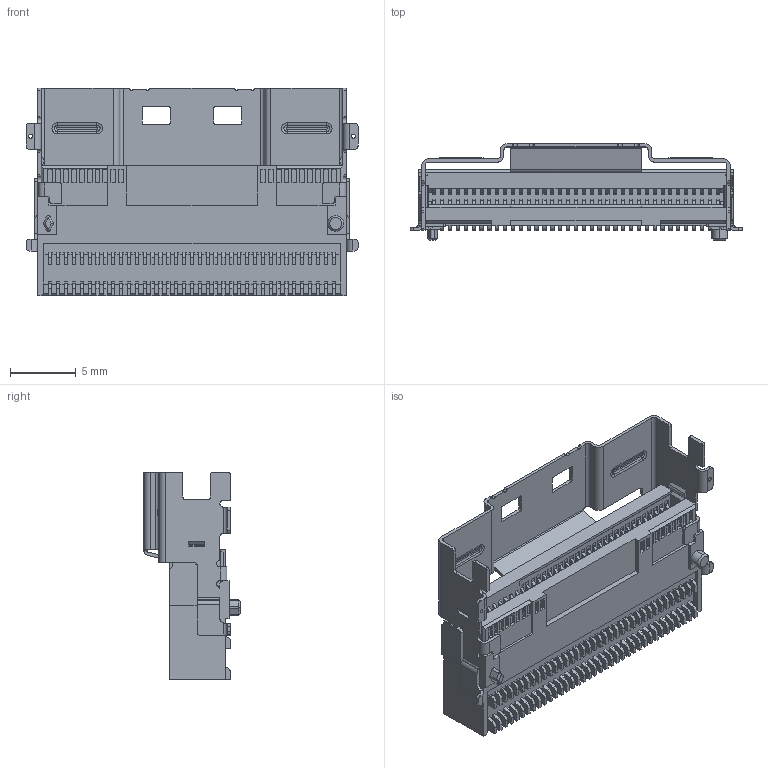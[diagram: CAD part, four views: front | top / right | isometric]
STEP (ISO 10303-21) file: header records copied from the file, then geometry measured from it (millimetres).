
FILE_DESCRIPTION((''),'2;1');
FILE_NAME('SLIMSAS_RA_74PINS_PSL060-7443-T','2026-07-15T08:36:24',('39002408'),(''),'CREO PARAMETRIC BY PTC INC, 2019471','CREO PARAMETRIC BY PTC INC, 2019471','');
FILE_SCHEMA(('CONFIG_CONTROL_DESIGN'));
Products named in the file (1): SLIMSAS_RA_74PINS_PSL060-7443-T
Bounding box: 25.3 x 7.35 x 15.8 mm (x, y, z)
Volume: 810.5 mm3; surface area: 1877 mm2
Topology: 1 solids, 2 shells, 3358 faces, 9863 edges, 6544 vertices
Faces by surface type: plane 2920, cylinder 411, bspline 12, torus 8, cone 6, extrusion 1
Entity records: 110734 total; most frequent: CARTESIAN_POINT 20356, ORIENTED_EDGE 19718, DIRECTION 17401, EDGE_CURVE 9859, VECTOR 8883, LINE 8882, VERTEX_POINT 6544, AXIS2_PLACEMENT_3D 4259
